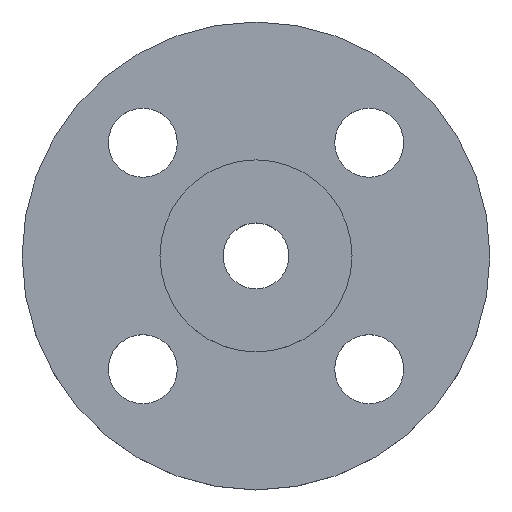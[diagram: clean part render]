
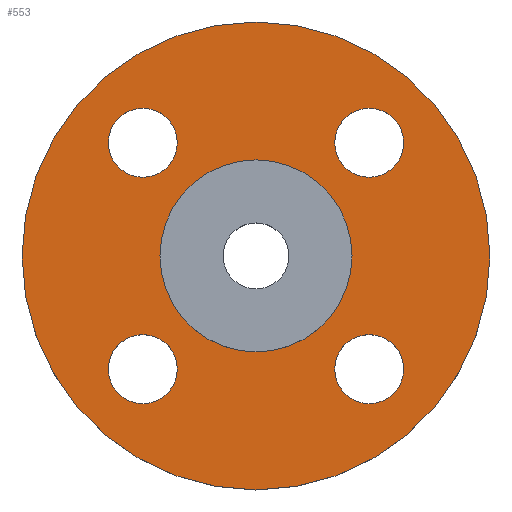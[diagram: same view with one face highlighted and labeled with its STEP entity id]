
A CAD part, top view. The second image highlights one B-rep face of the part: STEP entity #553.
In plain terms, the highlighted planar face has unit normal (0, 0, 1).
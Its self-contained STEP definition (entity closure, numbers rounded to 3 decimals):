
#5 = DIRECTION ( 'NONE',  ( 1., 0., 0. ) ) ;
#6 = DIRECTION ( 'NONE',  ( 0., 0., -1. ) ) ;
#11 = AXIS2_PLACEMENT_3D ( 'NONE', #224, #6, #5 ) ;
#13 = CIRCLE ( 'NONE', #59, 7. ) ;
#18 = CARTESIAN_POINT ( 'NONE',  ( -19.5, 0., -4.5 ) ) ;
#22 = CIRCLE ( 'NONE', #28, 7. ) ;
#28 = AXIS2_PLACEMENT_3D ( 'NONE', #360, #363, #364 ) ;
#46 = CIRCLE ( 'NONE', #63, 47.5 ) ;
#59 = AXIS2_PLACEMENT_3D ( 'NONE', #328, #329, #330 ) ;
#63 = AXIS2_PLACEMENT_3D ( 'NONE', #305, #306, #308 ) ;
#76 = CIRCLE ( 'NONE', #285, 47.5 ) ;
#92 = DIRECTION ( 'NONE',  ( -1., 0., 0. ) ) ;
#93 = DIRECTION ( 'NONE',  ( 0., 0., -1. ) ) ;
#95 = CARTESIAN_POINT ( 'NONE',  ( 0., 0., -4.5 ) ) ;
#120 = DIRECTION ( 'NONE',  ( -1., 0., 0. ) ) ;
#122 = CARTESIAN_POINT ( 'NONE',  ( -47.5, 0., -4.5 ) ) ;
#136 = CARTESIAN_POINT ( 'NONE',  ( -15.981, -22.981, -4.5 ) ) ;
#142 = FACE_BOUND ( 'NONE', #563, .T. ) ;
#143 = FACE_BOUND ( 'NONE', #401, .T. ) ;
#145 = FACE_BOUND ( 'NONE', #296, .T. ) ;
#149 = CARTESIAN_POINT ( 'NONE',  ( 15.981, 22.981, -4.5 ) ) ;
#151 = AXIS2_PLACEMENT_3D ( 'NONE', #349, #354, #355 ) ;
#165 = EDGE_CURVE ( 'NONE', #550, #554, #199, .T. ) ;
#166 = CARTESIAN_POINT ( 'NONE',  ( -15.981, 22.981, -4.5 ) ) ;
#172 = CARTESIAN_POINT ( 'NONE',  ( -29.981, 22.981, -4.5 ) ) ;
#173 = EDGE_CURVE ( 'NONE', #552, #568, #548, .T. ) ;
#178 = CARTESIAN_POINT ( 'NONE',  ( 15.981, -22.981, -4.5 ) ) ;
#179 = CARTESIAN_POINT ( 'NONE',  ( 29.981, 22.981, -4.5 ) ) ;
#180 = AXIS2_PLACEMENT_3D ( 'NONE', #366, #368, #369 ) ;
#194 = CARTESIAN_POINT ( 'NONE',  ( -29.981, -22.981, -4.5 ) ) ;
#199 = CIRCLE ( 'NONE', #652, 19.5 ) ;
#202 = CIRCLE ( 'NONE', #180, 7. ) ;
#205 = EDGE_CURVE ( 'NONE', #568, #552, #287, .T. ) ;
#211 = DIRECTION ( 'NONE',  ( 0., 0., 1. ) ) ;
#213 = AXIS2_PLACEMENT_3D ( 'NONE', #710, #211, #657 ) ;
#216 = FACE_BOUND ( 'NONE', #582, .T. ) ;
#220 = FACE_OUTER_BOUND ( 'NONE', #303, .T. ) ;
#223 = PLANE ( 'NONE',  #213 ) ;
#224 = CARTESIAN_POINT ( 'NONE',  ( -22.981, -22.981, -4.5 ) ) ;
#225 = CARTESIAN_POINT ( 'NONE',  ( 0., 0., -4.5 ) ) ;
#245 = AXIS2_PLACEMENT_3D ( 'NONE', #251, #252, #254 ) ;
#251 = CARTESIAN_POINT ( 'NONE',  ( 22.981, 22.981, -4.5 ) ) ;
#252 = DIRECTION ( 'NONE',  ( 0., 0., -1. ) ) ;
#253 = EDGE_CURVE ( 'NONE', #516, #567, #527, .T. ) ;
#254 = DIRECTION ( 'NONE',  ( 1., 0., 0. ) ) ;
#262 = CIRCLE ( 'NONE', #722, 19.5 ) ;
#280 = EDGE_CURVE ( 'NONE', #392, #555, #312, .T. ) ;
#282 = EDGE_CURVE ( 'NONE', #290, #476, #46, .T. ) ;
#285 = AXIS2_PLACEMENT_3D ( 'NONE', #95, #93, #92 ) ;
#287 = CIRCLE ( 'NONE', #11, 7. ) ;
#290 = VERTEX_POINT ( 'NONE', #322 ) ;
#295 = CARTESIAN_POINT ( 'NONE',  ( 22.981, -22.981, -4.5 ) ) ;
#296 = EDGE_LOOP ( 'NONE', ( #468, #469 ) ) ;
#300 = DIRECTION ( 'NONE',  ( 0., 0., -1. ) ) ;
#302 = DIRECTION ( 'NONE',  ( 1., 0., 0. ) ) ;
#303 = EDGE_LOOP ( 'NONE', ( #472, #473 ) ) ;
#305 = CARTESIAN_POINT ( 'NONE',  ( 0., 0., -4.5 ) ) ;
#306 = DIRECTION ( 'NONE',  ( 0., 0., -1. ) ) ;
#308 = DIRECTION ( 'NONE',  ( -1., 0., 0. ) ) ;
#310 = EDGE_CURVE ( 'NONE', #555, #392, #13, .T. ) ;
#312 = CIRCLE ( 'NONE', #663, 7. ) ;
#322 = CARTESIAN_POINT ( 'NONE',  ( 47.5, 0., -4.5 ) ) ;
#328 = CARTESIAN_POINT ( 'NONE',  ( 22.981, -22.981, -4.5 ) ) ;
#329 = DIRECTION ( 'NONE',  ( 0., 0., -1. ) ) ;
#330 = DIRECTION ( 'NONE',  ( 1., 0., 0. ) ) ;
#346 = EDGE_CURVE ( 'NONE', #526, #510, #608, .T. ) ;
#349 = CARTESIAN_POINT ( 'NONE',  ( -22.981, 22.981, -4.5 ) ) ;
#354 = DIRECTION ( 'NONE',  ( 0., 0., -1. ) ) ;
#355 = DIRECTION ( 'NONE',  ( 1., 0., 0. ) ) ;
#360 = CARTESIAN_POINT ( 'NONE',  ( -22.981, 22.981, -4.5 ) ) ;
#362 = AXIS2_PLACEMENT_3D ( 'NONE', #687, #688, #689 ) ;
#363 = DIRECTION ( 'NONE',  ( 0., 0., -1. ) ) ;
#364 = DIRECTION ( 'NONE',  ( 1., 0., 0. ) ) ;
#365 = CARTESIAN_POINT ( 'NONE',  ( 29.981, -22.981, -4.5 ) ) ;
#366 = CARTESIAN_POINT ( 'NONE',  ( 22.981, 22.981, -4.5 ) ) ;
#368 = DIRECTION ( 'NONE',  ( 0., 0., -1. ) ) ;
#369 = DIRECTION ( 'NONE',  ( 1., 0., 0. ) ) ;
#388 = EDGE_CURVE ( 'NONE', #510, #526, #22, .T. ) ;
#392 = VERTEX_POINT ( 'NONE', #365 ) ;
#396 = FACE_BOUND ( 'NONE', #465, .T. ) ;
#401 = EDGE_LOOP ( 'NONE', ( #458, #459 ) ) ;
#402 = EDGE_CURVE ( 'NONE', #567, #516, #202, .T. ) ;
#458 = ORIENTED_EDGE ( 'NONE', *, *, #280, .T. ) ;
#459 = ORIENTED_EDGE ( 'NONE', *, *, #310, .T. ) ;
#460 = EDGE_CURVE ( 'NONE', #554, #550, #262, .T. ) ;
#462 = ORIENTED_EDGE ( 'NONE', *, *, #173, .T. ) ;
#463 = ORIENTED_EDGE ( 'NONE', *, *, #205, .T. ) ;
#464 = ORIENTED_EDGE ( 'NONE', *, *, #388, .T. ) ;
#465 = EDGE_LOOP ( 'NONE', ( #464, #466 ) ) ;
#466 = ORIENTED_EDGE ( 'NONE', *, *, #346, .T. ) ;
#468 = ORIENTED_EDGE ( 'NONE', *, *, #402, .T. ) ;
#469 = ORIENTED_EDGE ( 'NONE', *, *, #253, .T. ) ;
#470 = ORIENTED_EDGE ( 'NONE', *, *, #165, .T. ) ;
#471 = ORIENTED_EDGE ( 'NONE', *, *, #460, .T. ) ;
#472 = ORIENTED_EDGE ( 'NONE', *, *, #282, .F. ) ;
#473 = ORIENTED_EDGE ( 'NONE', *, *, #645, .F. ) ;
#476 = VERTEX_POINT ( 'NONE', #122 ) ;
#510 = VERTEX_POINT ( 'NONE', #166 ) ;
#516 = VERTEX_POINT ( 'NONE', #149 ) ;
#526 = VERTEX_POINT ( 'NONE', #172 ) ;
#527 = CIRCLE ( 'NONE', #245, 7. ) ;
#548 = CIRCLE ( 'NONE', #362, 7. ) ;
#550 = VERTEX_POINT ( 'NONE', #18 ) ;
#552 = VERTEX_POINT ( 'NONE', #136 ) ;
#553 = ADVANCED_FACE ( 'NONE', ( #143, #142, #396, #145, #216, #220 ), #223, .T. ) ;
#554 = VERTEX_POINT ( 'NONE', #717 ) ;
#555 = VERTEX_POINT ( 'NONE', #178 ) ;
#563 = EDGE_LOOP ( 'NONE', ( #462, #463 ) ) ;
#567 = VERTEX_POINT ( 'NONE', #179 ) ;
#568 = VERTEX_POINT ( 'NONE', #194 ) ;
#582 = EDGE_LOOP ( 'NONE', ( #470, #471 ) ) ;
#608 = CIRCLE ( 'NONE', #151, 7. ) ;
#645 = EDGE_CURVE ( 'NONE', #476, #290, #76, .T. ) ;
#652 = AXIS2_PLACEMENT_3D ( 'NONE', #683, #684, #685 ) ;
#657 = DIRECTION ( 'NONE',  ( 1., 0., 0. ) ) ;
#663 = AXIS2_PLACEMENT_3D ( 'NONE', #295, #300, #302 ) ;
#683 = CARTESIAN_POINT ( 'NONE',  ( 0., 0., -4.5 ) ) ;
#684 = DIRECTION ( 'NONE',  ( 0., 0., -1. ) ) ;
#685 = DIRECTION ( 'NONE',  ( -1., 0., 0. ) ) ;
#687 = CARTESIAN_POINT ( 'NONE',  ( -22.981, -22.981, -4.5 ) ) ;
#688 = DIRECTION ( 'NONE',  ( 0., 0., -1. ) ) ;
#689 = DIRECTION ( 'NONE',  ( 1., 0., 0. ) ) ;
#710 = CARTESIAN_POINT ( 'NONE',  ( 19.5, 0., -4.5 ) ) ;
#712 = DIRECTION ( 'NONE',  ( 0., 0., -1. ) ) ;
#717 = CARTESIAN_POINT ( 'NONE',  ( 19.5, 0., -4.5 ) ) ;
#722 = AXIS2_PLACEMENT_3D ( 'NONE', #225, #712, #120 ) ;
